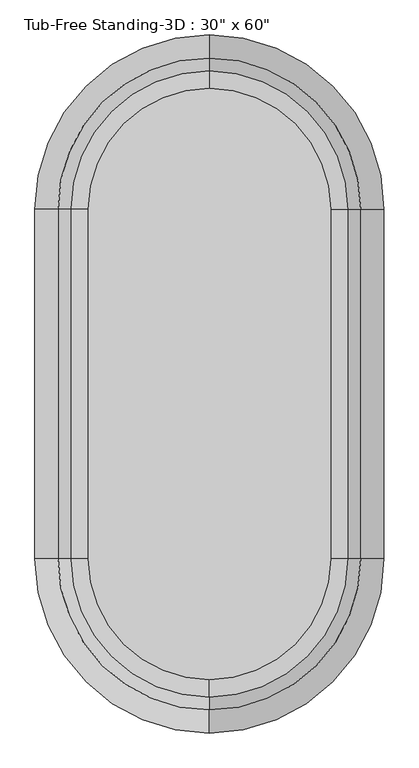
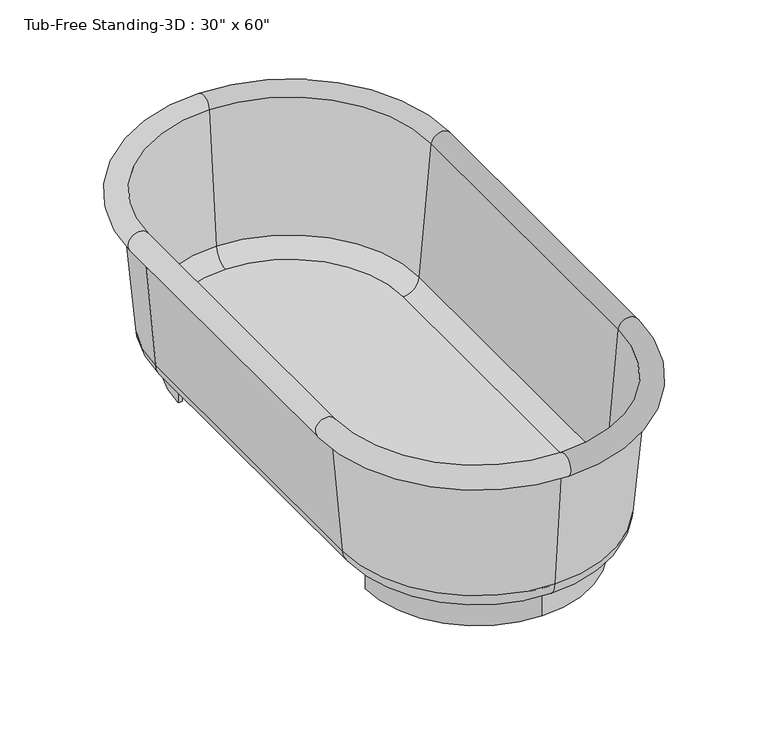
"""IFC4 building model written with IfcOpenShell, lengths in millimetres: flow terminal geometry."""

from ifc_helpers import new_model, si_unit, point, frame, frame_2d, origin, origin_with_axes, place, context, project, spatial, polyline, circle_curve, ellipse_curve, trimmed, segment, composite_curve, outline, extrude, source, transform, mapped, element, save
from ifc_brep_helpers import plane_surface, cylinder_surface, revolved_surface, advanced_brep


def flow_terminal_b374fae2(model_context):
    return source(origin(), model_context, "Body", "SolidModel", [
        extrude(outline(composite_curve([segment(trimmed(circle_curve(frame_2d((0.0, 381.0)), 254.0), [point((0.0, 635.0))], [point((-254.0, 381.0))], True, "CARTESIAN"), True, "CONTINUOUS"), segment(polyline([(-254.0, 381.0), (-264.2824236, 381.0)]), True, "CONTINUOUS"), segment(trimmed(circle_curve(frame_2d((0.0, 381.0)), 264.2824236), [point((-264.2824236, 381.0))], [point((0.0, 645.2824236))], False, "CARTESIAN"), True, "CONTINUOUS"), segment(trimmed(circle_curve(frame_2d((0.0, 381.0)), 264.2824236), [point((0.0, 645.2824236))], [point((264.2824236, 381.0))], False, "CARTESIAN"), True, "CONTINUOUS"), segment(polyline([(264.2824236, 381.0), (254.0, 381.0)]), True, "CONTINUOUS"), segment(trimmed(circle_curve(frame_2d((0.0, 381.0)), 254.0), [point((254.0, 381.0))], [point((0.0, 635.0))], True, "CARTESIAN"), True, "CONTINUOUS")], self_intersect=False)), origin_with_axes(), (0.0, 0.0, 1.0), 63.5),
        extrude(outline(composite_curve([segment(trimmed(circle_curve(frame_2d((0.0, -381.0)), 264.2824236), [point((0.0, -645.2824236))], [point((-264.2824236, -381.0))], False, "CARTESIAN"), True, "CONTINUOUS"), segment(polyline([(-264.2824236, -381.0), (-254.0, -381.0)]), True, "CONTINUOUS"), segment(trimmed(circle_curve(frame_2d((0.0, -381.0)), 254.0), [point((-254.0, -381.0))], [point((0.0, -635.0))], True, "CARTESIAN"), True, "CONTINUOUS"), segment(trimmed(circle_curve(frame_2d((0.0, -381.0)), 254.0), [point((0.0, -635.0))], [point((254.0, -381.0))], True, "CARTESIAN"), True, "CONTINUOUS"), segment(polyline([(254.0, -381.0), (264.2824236, -381.0)]), True, "CONTINUOUS"), segment(trimmed(circle_curve(frame_2d((0.0, -381.0)), 264.2824236), [point((264.2824236, -381.0))], [point((0.0, -645.2824236))], False, "CARTESIAN"), True, "CONTINUOUS")], self_intersect=False)), origin_with_axes(), (0.0, 0.0, 1.0), 63.5),
        extrude(outline(composite_curve([segment(polyline([(-264.2824236, -381.0), (-264.2824236, 381.0)]), True, "CONTINUOUS"), segment(trimmed(circle_curve(frame_2d((0.0, 381.0)), 264.2824236), [point((-264.2824236, 381.0))], [point((0.0, 645.2824236))], False, "CARTESIAN"), True, "CONTINUOUS"), segment(trimmed(circle_curve(frame_2d((0.0, 381.0)), 264.2824236), [point((0.0, 645.2824236))], [point((264.2824236, 381.0))], False, "CARTESIAN"), True, "CONTINUOUS"), segment(polyline([(264.2824236, 381.0), (264.2824236, -381.0)]), True, "CONTINUOUS"), segment(trimmed(circle_curve(frame_2d((0.0, -381.0)), 264.2824236), [point((264.2824236, -381.0))], [point((0.0, -645.2824236))], False, "CARTESIAN"), True, "CONTINUOUS"), segment(trimmed(circle_curve(frame_2d((0.0, -381.0)), 264.2824236), [point((0.0, -645.2824236))], [point((-264.2824236, -381.0))], False, "CARTESIAN"), True, "CONTINUOUS")], self_intersect=False)), frame((0.0, 0.0, 63.5), z_axis=(0.0, 0.0, 1.0), x_axis=(1.0, 0.0, 0.0)), (0.0, 0.0, 1.0), 15.08125),
        advanced_brep(
        [(0.0, -723.9, 406.4), (342.9, -381.0, 406.4), (355.6, -381.0, 406.4), (0.0, -736.6, 406.4), (0.0, -698.1045038, 111.5561295), (317.1045038, -381.0, 111.5561295), (0.0, -645.2824236, 63.1536107), (264.2824236, -381.0, 63.1536107), (0.0, -645.2824236, 78.0774627), (264.2824236, -381.0, 78.0774627), (0.0, -683.2374416, 112.8568289), (302.2374416, -381.0, 112.8568289), (0.0, -711.4561556, 435.3982063), (330.4561556, -381.0, 435.3982063), (-342.9, -381.0, 406.4), (-355.6, -381.0, 406.4), (-317.1045038, -381.0, 111.5561295), (-264.2824236, -381.0, 63.1536107), (-264.2824236, -381.0, 78.0774627), (-302.2374416, -381.0, 112.8568289), (-330.4561556, -381.0, 435.3982063), (-355.6, 381.0, 406.4), (-342.9, 381.0, 406.4), (-317.1045038, 381.0, 111.5561295), (-264.2824236, 381.0, 63.1536107), (-264.2824236, 381.0, 78.0774627), (-302.2374416, 381.0, 112.8568289), (-330.4561556, 381.0, 435.3982063), (0.0, 723.9, 406.4), (0.0, 736.6, 406.4), (0.0, 698.1045038, 111.5561295), (0.0, 645.2824236, 63.1536107), (0.0, 645.2824236, 78.0774627), (0.0, 683.2374416, 112.8568289), (0.0, 711.4561556, 435.3982063), (342.9, 381.0, 406.4), (355.6, 381.0, 406.4), (317.1045038, 381.0, 111.5561295), (264.2824236, 381.0, 63.1536107), (264.2824236, 381.0, 78.0774627), (302.2374416, 381.0, 112.8568289), (330.4561556, 381.0, 435.3982063)],
        [
            (0, 1, circle_curve(frame((0.0, -381.0, 406.4), z_axis=(0.0, 0.0, 1.0), x_axis=(1.0, 0.0, 0.0)), 342.9)),
            (1, 2),
            (2, 3, circle_curve(frame((0.0, -381.0, 406.4), z_axis=(0.0, 0.0, -1.0), x_axis=(1.0, 0.0, 0.0)), 355.6)),
            (3, 0),
            (4, 5, circle_curve(frame((0.0, -381.0, 111.5561295), z_axis=(0.0, 0.0, 1.0), x_axis=(1.0, 0.0, 0.0)), 317.1045038)),
            (5, 1),
            (0, 4),
            (6, 7, circle_curve(frame((0.0, -381.0, 63.1536107), z_axis=(0.0, 0.0, 1.0), x_axis=(1.0, 0.0, 0.0)), 264.2824236)),
            (7, 5, circle_curve(frame((264.2824236, -381.0, 116.1774627), z_axis=(0.0, -1.0, 0.0), x_axis=(1.0, 0.0, 0.0)), 53.023852)),
            (4, 6, circle_curve(frame((0.0, -645.2824236, 116.1774627), z_axis=(1.0, 0.0, 0.0), x_axis=(0.0, -1.0, 0.0)), 53.023852)),
            (8, 9, circle_curve(frame((0.0, -381.0, 78.0774627), z_axis=(0.0, 0.0, 1.0), x_axis=(1.0, 0.0, 0.0)), 264.2824236)),
            (9, 7),
            (6, 8),
            (10, 11, circle_curve(frame((0.0, -381.0, 112.8568289), z_axis=(0.0, 0.0, 1.0), x_axis=(1.0, 0.0, 0.0)), 302.2374416)),
            (11, 9, circle_curve(frame((264.2824236, -381.0, 116.1774627), z_axis=(0.0, 1.0, 0.0), x_axis=(1.0, 0.0, 0.0)), 38.1)),
            (8, 10, circle_curve(frame((0.0, -645.2824236, 116.1774627), z_axis=(-1.0, 0.0, 0.0), x_axis=(0.0, -1.0, 0.0)), 38.1)),
            (12, 13, circle_curve(frame((0.0, -381.0, 435.3982063), z_axis=(0.0, 0.0, 1.0), x_axis=(1.0, 0.0, 0.0)), 330.4561556)),
            (13, 11),
            (10, 12),
            (2, 13, circle_curve(frame((355.6, -381.0, 431.8), z_axis=(0.0, -1.0, 0.0), x_axis=(1.0, 0.0, 0.0)), 25.4)),
            (12, 3, circle_curve(frame((0.0, -736.6, 431.8), z_axis=(1.0, 0.0, 0.0), x_axis=(0.0, -1.0, 0.0)), 25.4)),
            (14, 0, circle_curve(frame((0.0, -381.0, 406.4), z_axis=(0.0, 0.0, 1.0), x_axis=(0.0, -1.0, 0.0)), 342.9)),
            (3, 15, circle_curve(frame((0.0, -381.0, 406.4), z_axis=(0.0, 0.0, -1.0), x_axis=(0.0, -1.0, 0.0)), 355.6)),
            (15, 14),
            (16, 4, circle_curve(frame((0.0, -381.0, 111.5561295), z_axis=(0.0, 0.0, 1.0), x_axis=(0.0, -1.0, 0.0)), 317.1045038)),
            (14, 16),
            (17, 6, circle_curve(frame((0.0, -381.0, 63.1536107), z_axis=(0.0, 0.0, 1.0), x_axis=(0.0, -1.0, 0.0)), 264.2824236)),
            (16, 17, circle_curve(frame((-264.2824236, -381.0, 116.1774627), z_axis=(0.0, -1.0, 0.0), x_axis=(-1.0, 0.0, 0.0)), 53.023852)),
            (18, 8, circle_curve(frame((0.0, -381.0, 78.0774627), z_axis=(0.0, 0.0, 1.0), x_axis=(0.0, -1.0, 0.0)), 264.2824236)),
            (17, 18),
            (19, 10, circle_curve(frame((0.0, -381.0, 112.8568289), z_axis=(0.0, 0.0, 1.0), x_axis=(0.0, -1.0, 0.0)), 302.2374416)),
            (18, 19, circle_curve(frame((-264.2824236, -381.0, 116.1774627), z_axis=(0.0, 1.0, 0.0), x_axis=(-1.0, 0.0, 0.0)), 38.1)),
            (20, 12, circle_curve(frame((0.0, -381.0, 435.3982063), z_axis=(0.0, 0.0, 1.0), x_axis=(0.0, -1.0, 0.0)), 330.4561556)),
            (19, 20),
            (20, 15, circle_curve(frame((-355.6, -381.0, 431.8), z_axis=(0.0, -1.0, 0.0), x_axis=(-1.0, 0.0, 0.0)), 25.4)),
            (15, 21),
            (21, 22),
            (22, 14),
            (22, 23),
            (23, 16),
            (23, 24, circle_curve(frame((-264.2824236, 381.0, 116.1774627), z_axis=(0.0, -1.0, 0.0), x_axis=(-1.0, 0.0, 0.0)), 53.023852)),
            (24, 17),
            (24, 25),
            (25, 18),
            (25, 26, circle_curve(frame((-264.2824236, 381.0, 116.1774627), z_axis=(0.0, 1.0, 0.0), x_axis=(-1.0, 0.0, 0.0)), 38.1)),
            (26, 19),
            (26, 27),
            (27, 20),
            (27, 21, circle_curve(frame((-355.6, 381.0, 431.8), z_axis=(0.0, -1.0, 0.0), x_axis=(-1.0, 0.0, 0.0)), 25.4)),
            (28, 22, circle_curve(frame((0.0, 381.0, 406.4), z_axis=(0.0, 0.0, 1.0), x_axis=(-1.0, 0.0, 0.0)), 342.9)),
            (21, 29, circle_curve(frame((0.0, 381.0, 406.4), z_axis=(0.0, 0.0, -1.0), x_axis=(-1.0, 0.0, 0.0)), 355.6)),
            (29, 28),
            (30, 23, circle_curve(frame((0.0, 381.0, 111.5561295), z_axis=(0.0, 0.0, 1.0), x_axis=(-1.0, 0.0, 0.0)), 317.1045038)),
            (28, 30),
            (31, 24, circle_curve(frame((0.0, 381.0, 63.1536107), z_axis=(0.0, 0.0, 1.0), x_axis=(-1.0, 0.0, 0.0)), 264.2824236)),
            (30, 31, circle_curve(frame((0.0, 645.2824236, 116.1774627), z_axis=(-1.0, 0.0, 0.0), x_axis=(0.0, 1.0, 0.0)), 53.023852)),
            (32, 25, circle_curve(frame((0.0, 381.0, 78.0774627), z_axis=(0.0, 0.0, 1.0), x_axis=(-1.0, 0.0, 0.0)), 264.2824236)),
            (31, 32),
            (33, 26, circle_curve(frame((0.0, 381.0, 112.8568289), z_axis=(0.0, 0.0, 1.0), x_axis=(-1.0, 0.0, 0.0)), 302.2374416)),
            (32, 33, circle_curve(frame((0.0, 645.2824236, 116.1774627), z_axis=(1.0, 0.0, 0.0), x_axis=(0.0, 1.0, 0.0)), 38.1)),
            (34, 27, circle_curve(frame((0.0, 381.0, 435.3982063), z_axis=(0.0, 0.0, 1.0), x_axis=(-1.0, 0.0, 0.0)), 330.4561556)),
            (33, 34),
            (34, 29, circle_curve(frame((0.0, 736.6, 431.8), z_axis=(-1.0, 0.0, 0.0), x_axis=(0.0, 1.0, 0.0)), 25.4)),
            (35, 28, circle_curve(frame((0.0, 381.0, 406.4), z_axis=(0.0, 0.0, 1.0), x_axis=(0.0, 1.0, 0.0)), 342.9)),
            (29, 36, circle_curve(frame((0.0, 381.0, 406.4), z_axis=(0.0, 0.0, -1.0), x_axis=(0.0, 1.0, 0.0)), 355.6)),
            (36, 35),
            (37, 30, circle_curve(frame((0.0, 381.0, 111.5561295), z_axis=(0.0, 0.0, 1.0), x_axis=(0.0, 1.0, 0.0)), 317.1045038)),
            (35, 37),
            (38, 31, circle_curve(frame((0.0, 381.0, 63.1536107), z_axis=(0.0, 0.0, 1.0), x_axis=(0.0, 1.0, 0.0)), 264.2824236)),
            (37, 38, circle_curve(frame((264.2824236, 381.0, 116.1774627), z_axis=(0.0, 1.0, 0.0), x_axis=(1.0, 0.0, 0.0)), 53.023852)),
            (39, 32, circle_curve(frame((0.0, 381.0, 78.0774627), z_axis=(0.0, 0.0, 1.0), x_axis=(0.0, 1.0, 0.0)), 264.2824236)),
            (38, 39),
            (40, 33, circle_curve(frame((0.0, 381.0, 112.8568289), z_axis=(0.0, 0.0, 1.0), x_axis=(0.0, 1.0, 0.0)), 302.2374416)),
            (39, 40, circle_curve(frame((264.2824236, 381.0, 116.1774627), z_axis=(0.0, -1.0, 0.0), x_axis=(1.0, 0.0, 0.0)), 38.1)),
            (41, 34, circle_curve(frame((0.0, 381.0, 435.3982063), z_axis=(0.0, 0.0, 1.0), x_axis=(0.0, 1.0, 0.0)), 330.4561556)),
            (40, 41),
            (41, 36, circle_curve(frame((355.6, 381.0, 431.8), z_axis=(0.0, 1.0, 0.0), x_axis=(1.0, 0.0, 0.0)), 25.4)),
            (36, 2),
            (1, 35),
            (5, 37),
            (7, 38),
            (9, 39),
            (11, 40),
            (13, 41),
        ],
        [
            plane_surface(frame((0.0, -381.0, 406.4), z_axis=(0.0, 0.0, -1.0), x_axis=(1.0, 0.0, 0.0))),
            revolved_surface(polyline([(342.9, -381.0, 406.4), (317.1045038, -381.0, 111.5561295)]), (0.0, -381.0, 431.8), (0.0, 0.0, -1.0)),
            revolved_surface(trimmed(ellipse_curve(frame((264.2824236, -381.0, 116.1774627), z_axis=(0.0, 1.0, 0.0), x_axis=(1.0, 0.0, 0.0)), 53.023852, 53.023852), [point((317.1045038, -381.0, 111.5561295))], [point((264.2824236, -381.0, 63.1536107))], True, "CARTESIAN"), (0.0, -381.0, 431.8), (0.0, 0.0, -1.0)),
            revolved_surface(polyline([(264.2824236, -381.0, 63.1536107), (264.2824236, -381.0, 78.07746270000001)]), (0.0, -381.0, 431.8), (0.0, 0.0, -1.0)),
            revolved_surface(trimmed(ellipse_curve(frame((264.2824236, -381.0, 116.1774627), z_axis=(0.0, -1.0, 0.0), x_axis=(1.0, 0.0, 0.0)), 38.1, 38.1), [point((264.2824236, -381.0, 78.0774627))], [point((302.2374416, -381.0, 112.8568289))], True, "CARTESIAN"), (0.0, -381.0, 431.8), (0.0, 0.0, -1.0)),
            revolved_surface(polyline([(302.2374416, -381.0, 112.8568289), (330.4561556, -381.0, 435.3982063)]), (0.0, -381.0, 431.8), (0.0, 0.0, -1.0)),
            revolved_surface(trimmed(ellipse_curve(frame((355.6, -381.0, 431.8), z_axis=(0.0, 1.0, 0.0), x_axis=(1.0, 0.0, 0.0)), 25.4, 25.4), [point((330.4561556, -381.0, 435.3982063))], [point((355.6, -381.0, 406.4))], True, "CARTESIAN"), (0.0, -381.0, 431.8), (0.0, 0.0, -1.0)),
            plane_surface(frame((0.0, -381.0, 406.4), z_axis=(0.0, 0.0, -1.0), x_axis=(0.0, -1.0, 0.0))),
            revolved_surface(polyline([(0.0, -723.9, 406.4), (0.0, -698.1045038, 111.5561295)]), (0.0, -381.0, 431.8), (0.0, 0.0, -1.0)),
            revolved_surface(trimmed(ellipse_curve(frame((0.0, -645.2824236, 116.1774627), z_axis=(1.0, 0.0, 0.0), x_axis=(0.0, -1.0, 0.0)), 53.023852, 53.023852), [point((0.0, -698.1045038, 111.5561295))], [point((0.0, -645.2824236, 63.1536107))], True, "CARTESIAN"), (0.0, -381.0, 431.8), (0.0, 0.0, -1.0)),
            revolved_surface(polyline([(0.0, -645.2824236, 63.1536107), (0.0, -645.2824236, 78.07746270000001)]), (0.0, -381.0, 431.8), (0.0, 0.0, -1.0)),
            revolved_surface(trimmed(ellipse_curve(frame((0.0, -645.2824236, 116.1774627), z_axis=(-1.0, 0.0, 0.0), x_axis=(0.0, -1.0, 0.0)), 38.1, 38.1), [point((0.0, -645.2824236, 78.0774627))], [point((0.0, -683.2374416, 112.8568289))], True, "CARTESIAN"), (0.0, -381.0, 431.8), (0.0, 0.0, -1.0)),
            revolved_surface(polyline([(0.0, -683.2374416, 112.8568289), (0.0, -711.4561556, 435.3982063)]), (0.0, -381.0, 431.8), (0.0, 0.0, -1.0)),
            revolved_surface(trimmed(ellipse_curve(frame((0.0, -736.6, 431.8), z_axis=(1.0, 0.0, 0.0), x_axis=(0.0, -1.0, 0.0)), 25.4, 25.4), [point((0.0, -711.4561556, 435.3982063))], [point((0.0, -736.6, 406.4))], True, "CARTESIAN"), (0.0, -381.0, 431.8), (0.0, 0.0, -1.0)),
            plane_surface(frame((-355.6, -381.0, 406.4), z_axis=(0.0, 0.0, -1.0), x_axis=(0.0, 1.0, 0.0))),
            plane_surface(frame((-342.9, -381.0, 406.4), z_axis=(-0.9961946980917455, 0.0, -0.08715574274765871), x_axis=(0.0, 1.0, 0.0))),
            cylinder_surface(frame((-264.2824236, -381.0, 116.1774627), z_axis=(0.0, -1.0, 0.0), x_axis=(-1.0, 0.0, 0.0)), 53.023852),
            plane_surface(frame((-264.2824236, -381.0, 63.1536107), z_axis=(1.0, 0.0, 0.0), x_axis=(0.0, 1.0, 0.0))),
            revolved_surface(polyline([(-302.38242360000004, 381.0, 116.1774627), (-302.38242360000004, -381.0, 116.1774627)]), (-264.2824236, -381.0, 116.1774627), (0.0, 1.0, 0.0)),
            plane_surface(frame((-302.2374416, -381.0, 112.8568289), z_axis=(0.9961946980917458, 0.0, 0.08715574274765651), x_axis=(0.0, 1.0, 0.0))),
            cylinder_surface(frame((-355.6, -381.0, 431.8), z_axis=(0.0, -1.0, 0.0), x_axis=(-1.0, 0.0, 0.0)), 25.4),
            plane_surface(frame((0.0, 381.0, 406.4), z_axis=(0.0, 0.0, -1.0), x_axis=(-1.0, 0.0, 0.0))),
            revolved_surface(polyline([(-342.9, 381.0, 406.4), (-317.1045038, 381.0, 111.5561295)]), (0.0, 381.0, 431.8), (0.0, 0.0, -1.0)),
            revolved_surface(trimmed(ellipse_curve(frame((-264.2824236, 381.0, 116.1774627), z_axis=(0.0, -1.0, 0.0), x_axis=(-1.0, 0.0, 0.0)), 53.023852, 53.023852), [point((-317.1045038, 381.0, 111.5561295))], [point((-264.2824236, 381.0, 63.1536107))], True, "CARTESIAN"), (0.0, 381.0, 431.8), (0.0, 0.0, -1.0)),
            revolved_surface(polyline([(-264.2824236, 381.0, 63.1536107), (-264.2824236, 381.0, 78.07746270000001)]), (0.0, 381.0, 431.8), (0.0, 0.0, -1.0)),
            revolved_surface(trimmed(ellipse_curve(frame((-264.2824236, 381.0, 116.1774627), z_axis=(0.0, 1.0, 0.0), x_axis=(-1.0, 0.0, 0.0)), 38.1, 38.1), [point((-264.2824236, 381.0, 78.0774627))], [point((-302.2374416, 381.0, 112.8568289))], True, "CARTESIAN"), (0.0, 381.0, 431.8), (0.0, 0.0, -1.0)),
            revolved_surface(polyline([(-302.2374416, 381.0, 112.8568289), (-330.4561556, 381.0, 435.3982063)]), (0.0, 381.0, 431.8), (0.0, 0.0, -1.0)),
            revolved_surface(trimmed(ellipse_curve(frame((-355.6, 381.0, 431.8), z_axis=(0.0, -1.0, 0.0), x_axis=(-1.0, 0.0, 0.0)), 25.4, 25.4), [point((-330.4561556, 381.0, 435.3982063))], [point((-355.6, 381.0, 406.4))], True, "CARTESIAN"), (0.0, 381.0, 431.8), (0.0, 0.0, -1.0)),
            plane_surface(frame((0.0, 381.0, 406.4), z_axis=(0.0, 0.0, -1.0), x_axis=(0.0, 1.0, 0.0))),
            revolved_surface(polyline([(0.0, 723.9, 406.4), (0.0, 698.1045038, 111.5561295)]), (0.0, 381.0, 431.8), (0.0, 0.0, -1.0)),
            revolved_surface(trimmed(ellipse_curve(frame((0.0, 645.2824236, 116.1774627), z_axis=(-1.0, 0.0, 0.0), x_axis=(0.0, 1.0, 0.0)), 53.023852, 53.023852), [point((0.0, 698.1045038, 111.5561295))], [point((0.0, 645.2824236, 63.1536107))], True, "CARTESIAN"), (0.0, 381.0, 431.8), (0.0, 0.0, -1.0)),
            revolved_surface(polyline([(0.0, 645.2824236, 63.1536107), (0.0, 645.2824236, 78.07746270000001)]), (0.0, 381.0, 431.8), (0.0, 0.0, -1.0)),
            revolved_surface(trimmed(ellipse_curve(frame((0.0, 645.2824236, 116.1774627), z_axis=(1.0, 0.0, 0.0), x_axis=(0.0, 1.0, 0.0)), 38.1, 38.1), [point((0.0, 645.2824236, 78.0774627))], [point((0.0, 683.2374416, 112.8568289))], True, "CARTESIAN"), (0.0, 381.0, 431.8), (0.0, 0.0, -1.0)),
            revolved_surface(polyline([(0.0, 683.2374416, 112.8568289), (0.0, 711.4561556, 435.3982063)]), (0.0, 381.0, 431.8), (0.0, 0.0, -1.0)),
            revolved_surface(trimmed(ellipse_curve(frame((0.0, 736.6, 431.8), z_axis=(-1.0, 0.0, 0.0), x_axis=(0.0, 1.0, 0.0)), 25.4, 25.4), [point((0.0, 711.4561556, 435.3982063))], [point((0.0, 736.6, 406.4))], True, "CARTESIAN"), (0.0, 381.0, 431.8), (0.0, 0.0, -1.0)),
            plane_surface(frame((355.6, 381.0, 406.4), z_axis=(0.0, 0.0, -1.0), x_axis=(0.0, -1.0, 0.0))),
            plane_surface(frame((342.9, 381.0, 406.4), z_axis=(0.9961946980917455, 0.0, -0.08715574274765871), x_axis=(0.0, -1.0, 0.0))),
            cylinder_surface(frame((264.2824236, 381.0, 116.1774627), z_axis=(0.0, 1.0, 0.0), x_axis=(1.0, 0.0, 0.0)), 53.023852),
            plane_surface(frame((264.2824236, 381.0, 63.1536107), z_axis=(-1.0, 0.0, 0.0), x_axis=(0.0, -1.0, 0.0))),
            revolved_surface(polyline([(302.38242360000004, -381.0, 116.1774627), (302.38242360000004, 381.0, 116.1774627)]), (264.2824236, 381.0, 116.1774627), (0.0, -1.0, 0.0)),
            plane_surface(frame((302.2374416, 381.0, 112.8568289), z_axis=(-0.9961946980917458, 0.0, 0.08715574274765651), x_axis=(0.0, -1.0, 0.0))),
            cylinder_surface(frame((355.6, 381.0, 431.8), z_axis=(0.0, 1.0, 0.0), x_axis=(1.0, 0.0, 0.0)), 25.4),
        ],
        [
            (0, [[1, 2, 3, 4]]),
            (1, [[5, 6, -1, 7]]),
            (2, [[8, 9, -5, 10]]),
            (3, [[11, 12, -8, 13]]),
            (4, [[14, 15, -11, 16]]),
            (5, [[17, 18, -14, 19]]),
            (6, [[-3, 20, -17, 21]]),
            (7, [[22, -4, 23, 24]]),
            (8, [[25, -7, -22, 26]]),
            (9, [[27, -10, -25, 28]]),
            (10, [[29, -13, -27, 30]]),
            (11, [[31, -16, -29, 32]]),
            (12, [[33, -19, -31, 34]]),
            (13, [[-23, -21, -33, 35]]),
            (14, [[-24, 36, 37, 38]]),
            (15, [[-26, -38, 39, 40]]),
            (16, [[-28, -40, 41, 42]]),
            (17, [[-30, -42, 43, 44]]),
            (18, [[-32, -44, 45, 46]]),
            (19, [[-34, -46, 47, 48]]),
            (20, [[-35, -48, 49, -36]]),
            (21, [[50, -37, 51, 52]]),
            (22, [[53, -39, -50, 54]]),
            (23, [[55, -41, -53, 56]]),
            (24, [[57, -43, -55, 58]]),
            (25, [[59, -45, -57, 60]]),
            (26, [[61, -47, -59, 62]]),
            (27, [[-51, -49, -61, 63]]),
            (28, [[64, -52, 65, 66]]),
            (29, [[67, -54, -64, 68]]),
            (30, [[69, -56, -67, 70]]),
            (31, [[71, -58, -69, 72]]),
            (32, [[73, -60, -71, 74]]),
            (33, [[75, -62, -73, 76]]),
            (34, [[-65, -63, -75, 77]]),
            (35, [[-66, 78, -2, 79]]),
            (36, [[-68, -79, -6, 80]]),
            (37, [[-70, -80, -9, 81]]),
            (38, [[-72, -81, -12, 82]]),
            (39, [[-74, -82, -15, 83]]),
            (40, [[-76, -83, -18, 84]]),
            (41, [[-77, -84, -20, -78]]),
        ],
    ),
    ])


if __name__ == "__main__":
    model = new_model("IFC4")
    model_context = context("Model", 3, world=origin())
    ifc_project = project(units=[si_unit("LENGTHUNIT", "METRE", prefix="MILLI")], contexts=[model_context])
    site = spatial("IfcSite", under=ifc_project)
    building = spatial("IfcBuilding", under=site)
    placement = place(None, origin())
    flow_terminal_shape = flow_terminal_b374fae2(model_context)
    element("IfcFlowTerminal", 1, ObjectType="Tub-Free Standing-3D : 30\" x 60\"", at=placement, inside=building, context=model_context, shape_type="MappedRepresentation", body=[
        mapped(flow_terminal_shape, transform((0.0, 0.0, 0.0), x_axis=(1.0, 0.0, 0.0), y_axis=(0.0, 1.0, 0.0), z_axis=(0.0, 0.0, 1.0))),
    ])
    save(model, "model.ifc")
